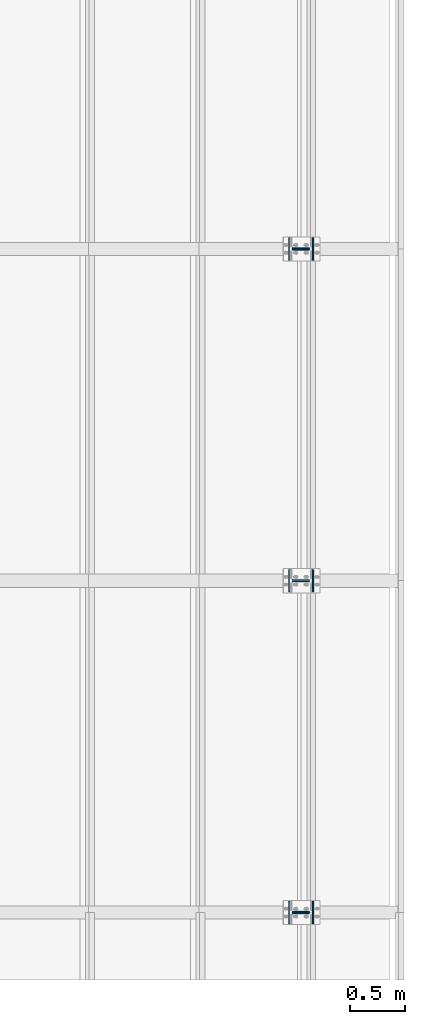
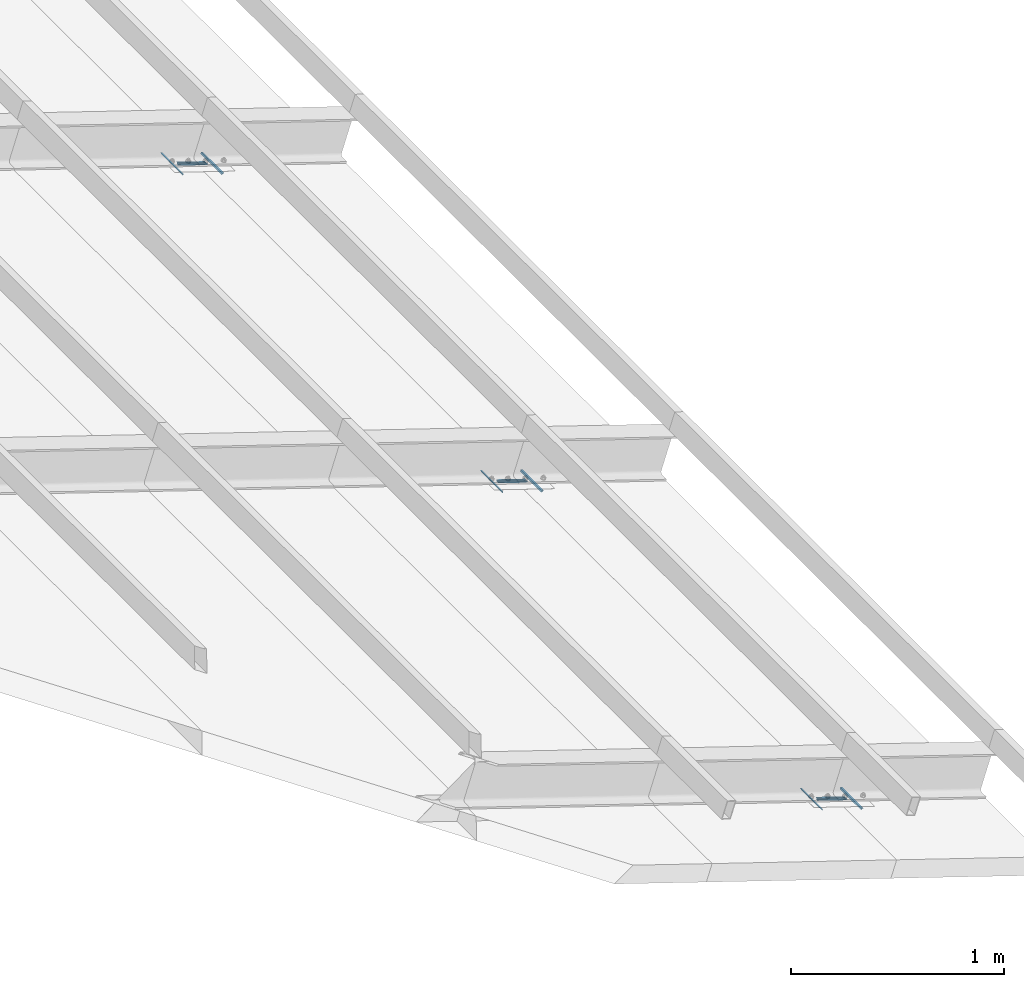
# One storey, part 15 of 53: 24 fasteners.
"""IFC4 building model written with IfcOpenShell, lengths in metres."""

from ifc_helpers import new_model, si_unit, frame, origin_with_axes, place, context, project, spatial, polyline, outline, extrude, type_object, element, save


model = new_model("IFC4")

# Units and contexts
model_context = context("Model", 3, precision=1e-05, world=origin_with_axes())
ifc_project = project(units=[si_unit("LENGTHUNIT", "METRE"), si_unit("AREAUNIT", "SQUARE_METRE"), si_unit("VOLUMEUNIT", "CUBIC_METRE"), si_unit("MASSUNIT", "GRAM", prefix="KILO"), si_unit("TIMEUNIT", "SECOND"), si_unit("PLANEANGLEUNIT", "RADIAN"), si_unit("SOLIDANGLEUNIT", "STERADIAN"), si_unit("THERMODYNAMICTEMPERATUREUNIT", "DEGREE_CELSIUS")], contexts=[model_context])

# Site, building, storey
placement_1 = place(None, origin_with_axes())
site = spatial("IfcSite", under=ifc_project, at=placement_1, Name="Italia", CompositionType="ELEMENT")
building = spatial("IfcBuilding", under=site, at=placement_1, Name="Capannone", CompositionType="ELEMENT")
storey_placement = place(None, frame((0.0, 0.0, 5.550000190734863), z_axis=(0.0, 0.0, 1.0), x_axis=(1.0, 0.0, 0.0)))
storey = spatial("IfcBuildingStorey", under=building, at=storey_placement, Name="Storey 1", CompositionType="ELEMENT", Elevation=5.550000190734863)

# Fasteners
fastener_type_1 = type_object("IfcFastenerType", Name="Collegamenti 0102_0002 0104_0004 0106_0006 0108_0008 0110_0010 0112_0012", PredefinedType="WELD")
placement_2 = place(placement_1, origin_with_axes())
fastener_1_placement = place(placement_2, origin_with_axes())
element("IfcFastener", 1, at=fastener_1_placement, inside=storey, type_object=fastener_type_1, Name="Collegamenti 0102_0002 0104_0004 0106_0006 0108_0008 0110_0010 0112_0012", context=model_context, shape_type="SweptSolid", body=[
    extrude(outline(polyline([(0.0, 0.0), (-0.00619888, -0.0127454), (-0.00937462, -0.00308037), (0.0, 0.0)])), frame((13.8857, -0.10005, 5.57182), z_axis=(0.0, 1.0, 0.0), x_axis=(-1.0, 0.0, 0.0)), (0.0, 0.0, 1.0), 0.2001),
])
fastener_type_2 = type_object("IfcFastenerType", Name="Collegamenti 0102_0002 0104_0004 0106_0006 0108_0008 0110_0010 0112_0012", PredefinedType="WELD")
fastener_2_placement = place(placement_2, origin_with_axes())
element("IfcFastener", 2, at=fastener_2_placement, inside=storey, type_object=fastener_type_2, Name="Collegamenti 0102_0002 0104_0004 0106_0006 0108_0008 0110_0010 0112_0012", context=model_context, shape_type="SweptSolid", body=[
    extrude(outline(polyline([(0.0, 0.0), (-0.0125504, -0.00658464), (-0.00937462, 0.00308037), (0.0, 0.0)])), frame((14.1143, 0.10005, 5.4967), z_axis=(0.0, -1.0, 0.0), x_axis=(1.0, 0.0, 0.0)), (0.0, 0.0, 1.0), 0.2001),
])
fastener_type_3 = type_object("IfcFastenerType", Name="Collegamenti 0102_0002 0104_0004 0106_0006 0108_0008 0110_0010 0112_0012", PredefinedType="WELD")
fastener_3_placement = place(placement_2, origin_with_axes())
element("IfcFastener", 3, at=fastener_3_placement, inside=storey, type_object=fastener_type_3, Name="Collegamenti 0102_0002 0104_0004 0106_0006 0108_0008 0110_0010 0112_0012", context=model_context, shape_type="SweptSolid", body=[
    extrude(outline(polyline([(0.0, 0.0), (-0.00986816, -0.0101738), (-0.00986816, 0.0), (0.0, 0.0)])), frame((13.9231, 0.0133181, 5.55954), z_axis=(0.950030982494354, 0.0, -0.312155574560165), x_axis=(0.0, 1.0, 0.0)), (0.0, 0.0, 1.0), 0.161989),
])
fastener_type_4 = type_object("IfcFastenerType", Name="Collegamenti 0102_0002 0104_0004 0106_0006 0108_0008 0110_0010 0112_0012", PredefinedType="WELD")
fastener_4_placement = place(placement_2, origin_with_axes())
element("IfcFastener", 4, at=fastener_4_placement, inside=storey, type_object=fastener_type_4, Name="Collegamenti 0102_0002 0104_0004 0106_0006 0108_0008 0110_0010 0112_0012", context=model_context, shape_type="SweptSolid", body=[
    extrude(outline(polyline([(0.0, 0.0), (-0.00986816, -0.0101738), (-0.00986816, 0.0), (0.0, 0.0)])), frame((14.077, -0.0133182, 5.50898), z_axis=(-0.950030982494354, 0.0, 0.312155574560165), x_axis=(0.0, -1.0, 0.0)), (0.0, 0.0, 1.0), 0.161989),
])
fastener_type_5 = type_object("IfcFastenerType", Name="Collegamenti 0102_0002 0104_0004 0106_0006 0108_0008 0110_0010 0112_0012", PredefinedType="WELD")
fastener_5_placement = place(placement_2, origin_with_axes())
element("IfcFastener", 5, at=fastener_5_placement, inside=storey, type_object=fastener_type_5, Name="Collegamenti 0102_0002 0104_0004 0106_0006 0108_0008 0110_0010 0112_0012", context=model_context, shape_type="SweptSolid", body=[
    extrude(outline(polyline([(0.0, 0.0), (-0.00619888, -0.0127454), (-0.00937462, -0.00308037), (0.0, 0.0)])), frame((13.8857, -0.10005, 5.57182), z_axis=(0.0, 1.0, 0.0), x_axis=(-1.0, 0.0, 0.0)), (0.0, 0.0, 1.0), 0.2001),
])
fastener_type_6 = type_object("IfcFastenerType", Name="Collegamenti 0102_0002 0104_0004 0106_0006 0108_0008 0110_0010 0112_0012", PredefinedType="WELD")
fastener_6_placement = place(placement_2, origin_with_axes())
element("IfcFastener", 6, at=fastener_6_placement, inside=storey, type_object=fastener_type_6, Name="Collegamenti 0102_0002 0104_0004 0106_0006 0108_0008 0110_0010 0112_0012", context=model_context, shape_type="SweptSolid", body=[
    extrude(outline(polyline([(0.0, 0.0), (-0.0125504, -0.00658464), (-0.00937462, 0.00308037), (0.0, 0.0)])), frame((14.1143, 0.10005, 5.4967), z_axis=(0.0, -1.0, 0.0), x_axis=(1.0, 0.0, 0.0)), (0.0, 0.0, 1.0), 0.2001),
])
fastener_type_7 = type_object("IfcFastenerType", Name="Collegamenti 0102_0002 0104_0004 0106_0006 0108_0008 0110_0010 0112_0012", PredefinedType="WELD")
fastener_7_placement = place(placement_2, origin_with_axes())
element("IfcFastener", 7, at=fastener_7_placement, inside=storey, type_object=fastener_type_7, Name="Collegamenti 0102_0002 0104_0004 0106_0006 0108_0008 0110_0010 0112_0012", context=model_context, shape_type="SweptSolid", body=[
    extrude(outline(polyline([(0.0, 0.0), (-0.00986816, -0.0101738), (-0.00986816, 0.0), (0.0, 0.0)])), frame((13.9231, 0.0133181, 5.55954), z_axis=(0.950030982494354, 0.0, -0.312155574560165), x_axis=(0.0, 1.0, 0.0)), (0.0, 0.0, 1.0), 0.161989),
])
fastener_type_8 = type_object("IfcFastenerType", Name="Collegamenti 0102_0002 0104_0004 0106_0006 0108_0008 0110_0010 0112_0012", PredefinedType="WELD")
fastener_8_placement = place(placement_2, origin_with_axes())
element("IfcFastener", 8, at=fastener_8_placement, inside=storey, type_object=fastener_type_8, Name="Collegamenti 0102_0002 0104_0004 0106_0006 0108_0008 0110_0010 0112_0012", context=model_context, shape_type="SweptSolid", body=[
    extrude(outline(polyline([(0.0, 0.0), (-0.00986816, -0.0101738), (-0.00986816, 0.0), (0.0, 0.0)])), frame((14.077, -0.0133182, 5.50898), z_axis=(-0.950030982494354, 0.0, 0.312155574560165), x_axis=(0.0, -1.0, 0.0)), (0.0, 0.0, 1.0), 0.161989),
])
fastener_type_9 = type_object("IfcFastenerType", Name="Collegamenti 0102_0002 0104_0004 0106_0006 0108_0008 0110_0010 0112_0012", PredefinedType="WELD")
fastener_9_placement = place(placement_2, origin_with_axes())
element("IfcFastener", 9, at=fastener_9_placement, inside=storey, type_object=fastener_type_9, Name="Collegamenti 0102_0002 0104_0004 0106_0006 0108_0008 0110_0010 0112_0012", context=model_context, shape_type="SweptSolid", body=[
    extrude(outline(polyline([(0.0, 0.0), (-0.00619888, -0.0127454), (-0.00937462, -0.00308037), (0.0, 0.0)])), frame((13.8857, 2.89995, 5.57182), z_axis=(0.0, 1.0, 0.0), x_axis=(-1.0, 0.0, 0.0)), (0.0, 0.0, 1.0), 0.2001),
])
fastener_type_10 = type_object("IfcFastenerType", Name="Collegamenti 0102_0002 0104_0004 0106_0006 0108_0008 0110_0010 0112_0012", PredefinedType="WELD")
fastener_10_placement = place(placement_2, origin_with_axes())
element("IfcFastener", 10, at=fastener_10_placement, inside=storey, type_object=fastener_type_10, Name="Collegamenti 0102_0002 0104_0004 0106_0006 0108_0008 0110_0010 0112_0012", context=model_context, shape_type="SweptSolid", body=[
    extrude(outline(polyline([(0.0, 0.0), (-0.0125504, -0.00658464), (-0.00937462, 0.00308037), (0.0, 0.0)])), frame((14.1143, 3.10005, 5.4967), z_axis=(0.0, -1.0, 0.0), x_axis=(1.0, 0.0, 0.0)), (0.0, 0.0, 1.0), 0.2001),
])
fastener_type_11 = type_object("IfcFastenerType", Name="Collegamenti 0102_0002 0104_0004 0106_0006 0108_0008 0110_0010 0112_0012", PredefinedType="WELD")
fastener_11_placement = place(placement_2, origin_with_axes())
element("IfcFastener", 11, at=fastener_11_placement, inside=storey, type_object=fastener_type_11, Name="Collegamenti 0102_0002 0104_0004 0106_0006 0108_0008 0110_0010 0112_0012", context=model_context, shape_type="SweptSolid", body=[
    extrude(outline(polyline([(0.0, 0.0), (-0.00986814, -0.0101738), (-0.00986814, 0.0), (0.0, 0.0)])), frame((13.9231, 3.01332, 5.55954), z_axis=(0.950030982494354, 0.0, -0.312155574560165), x_axis=(0.0, 1.0, 0.0)), (0.0, 0.0, 1.0), 0.161989),
])
fastener_type_12 = type_object("IfcFastenerType", Name="Collegamenti 0102_0002 0104_0004 0106_0006 0108_0008 0110_0010 0112_0012", PredefinedType="WELD")
fastener_12_placement = place(placement_2, origin_with_axes())
element("IfcFastener", 12, at=fastener_12_placement, inside=storey, type_object=fastener_type_12, Name="Collegamenti 0102_0002 0104_0004 0106_0006 0108_0008 0110_0010 0112_0012", context=model_context, shape_type="SweptSolid", body=[
    extrude(outline(polyline([(0.0, 0.0), (-0.00986814, -0.0101738), (-0.00986814, 0.0), (0.0, 0.0)])), frame((14.077, 2.98668, 5.50898), z_axis=(-0.950030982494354, 0.0, 0.312155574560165), x_axis=(0.0, -1.0, 0.0)), (0.0, 0.0, 1.0), 0.161989),
])
fastener_type_13 = type_object("IfcFastenerType", Name="Collegamenti 0102_0002 0104_0004 0106_0006 0108_0008 0110_0010 0112_0012", PredefinedType="WELD")
fastener_13_placement = place(placement_2, origin_with_axes())
element("IfcFastener", 13, at=fastener_13_placement, inside=storey, type_object=fastener_type_13, Name="Collegamenti 0102_0002 0104_0004 0106_0006 0108_0008 0110_0010 0112_0012", context=model_context, shape_type="SweptSolid", body=[
    extrude(outline(polyline([(0.0, 0.0), (-0.00619888, -0.0127454), (-0.00937462, -0.00308037), (0.0, 0.0)])), frame((13.8857, 2.89995, 5.57182), z_axis=(0.0, 1.0, 0.0), x_axis=(-1.0, 0.0, 0.0)), (0.0, 0.0, 1.0), 0.2001),
])
fastener_type_14 = type_object("IfcFastenerType", Name="Collegamenti 0102_0002 0104_0004 0106_0006 0108_0008 0110_0010 0112_0012", PredefinedType="WELD")
fastener_14_placement = place(placement_2, origin_with_axes())
element("IfcFastener", 14, at=fastener_14_placement, inside=storey, type_object=fastener_type_14, Name="Collegamenti 0102_0002 0104_0004 0106_0006 0108_0008 0110_0010 0112_0012", context=model_context, shape_type="SweptSolid", body=[
    extrude(outline(polyline([(0.0, 0.0), (-0.0125504, -0.00658464), (-0.00937462, 0.00308037), (0.0, 0.0)])), frame((14.1143, 3.10005, 5.4967), z_axis=(0.0, -1.0, 0.0), x_axis=(1.0, 0.0, 0.0)), (0.0, 0.0, 1.0), 0.2001),
])
fastener_type_15 = type_object("IfcFastenerType", Name="Collegamenti 0102_0002 0104_0004 0106_0006 0108_0008 0110_0010 0112_0012", PredefinedType="WELD")
fastener_15_placement = place(placement_2, origin_with_axes())
element("IfcFastener", 15, at=fastener_15_placement, inside=storey, type_object=fastener_type_15, Name="Collegamenti 0102_0002 0104_0004 0106_0006 0108_0008 0110_0010 0112_0012", context=model_context, shape_type="SweptSolid", body=[
    extrude(outline(polyline([(0.0, 0.0), (-0.00986814, -0.0101738), (-0.00986814, 0.0), (0.0, 0.0)])), frame((13.9231, 3.01332, 5.55954), z_axis=(0.950030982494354, 0.0, -0.312155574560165), x_axis=(0.0, 1.0, 0.0)), (0.0, 0.0, 1.0), 0.161989),
])
fastener_type_16 = type_object("IfcFastenerType", Name="Collegamenti 0102_0002 0104_0004 0106_0006 0108_0008 0110_0010 0112_0012", PredefinedType="WELD")
fastener_16_placement = place(placement_2, origin_with_axes())
element("IfcFastener", 16, at=fastener_16_placement, inside=storey, type_object=fastener_type_16, Name="Collegamenti 0102_0002 0104_0004 0106_0006 0108_0008 0110_0010 0112_0012", context=model_context, shape_type="SweptSolid", body=[
    extrude(outline(polyline([(0.0, 0.0), (-0.00986814, -0.0101738), (-0.00986814, 0.0), (0.0, 0.0)])), frame((14.077, 2.98668, 5.50898), z_axis=(-0.950030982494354, 0.0, 0.312155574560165), x_axis=(0.0, -1.0, 0.0)), (0.0, 0.0, 1.0), 0.161989),
])
fastener_type_17 = type_object("IfcFastenerType", Name="Collegamenti 0102_0002 0104_0004 0106_0006 0108_0008 0110_0010 0112_0012", PredefinedType="WELD")
fastener_17_placement = place(placement_2, origin_with_axes())
element("IfcFastener", 17, at=fastener_17_placement, inside=storey, type_object=fastener_type_17, Name="Collegamenti 0102_0002 0104_0004 0106_0006 0108_0008 0110_0010 0112_0012", context=model_context, shape_type="SweptSolid", body=[
    extrude(outline(polyline([(0.0, 0.0), (-0.00619888, -0.0127454), (-0.00937462, -0.00308037), (0.0, 0.0)])), frame((13.8857, 5.89995, 5.57182), z_axis=(0.0, 1.0, 0.0), x_axis=(-1.0, 0.0, 0.0)), (0.0, 0.0, 1.0), 0.2001),
])
fastener_type_18 = type_object("IfcFastenerType", Name="Collegamenti 0102_0002 0104_0004 0106_0006 0108_0008 0110_0010 0112_0012", PredefinedType="WELD")
fastener_18_placement = place(placement_2, origin_with_axes())
element("IfcFastener", 18, at=fastener_18_placement, inside=storey, type_object=fastener_type_18, Name="Collegamenti 0102_0002 0104_0004 0106_0006 0108_0008 0110_0010 0112_0012", context=model_context, shape_type="SweptSolid", body=[
    extrude(outline(polyline([(0.0, 0.0), (-0.0125504, -0.00658464), (-0.00937462, 0.00308037), (0.0, 0.0)])), frame((14.1143, 6.10005, 5.4967), z_axis=(0.0, -1.0, 0.0), x_axis=(1.0, 0.0, 0.0)), (0.0, 0.0, 1.0), 0.2001),
])
fastener_type_19 = type_object("IfcFastenerType", Name="Collegamenti 0102_0002 0104_0004 0106_0006 0108_0008 0110_0010 0112_0012", PredefinedType="WELD")
fastener_19_placement = place(placement_2, origin_with_axes())
element("IfcFastener", 19, at=fastener_19_placement, inside=storey, type_object=fastener_type_19, Name="Collegamenti 0102_0002 0104_0004 0106_0006 0108_0008 0110_0010 0112_0012", context=model_context, shape_type="SweptSolid", body=[
    extrude(outline(polyline([(0.0, 0.0), (-0.00986814, -0.0101738), (-0.00986814, 0.0), (0.0, 0.0)])), frame((13.9231, 6.01332, 5.55954), z_axis=(0.950030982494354, 0.0, -0.312155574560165), x_axis=(0.0, 1.0, 0.0)), (0.0, 0.0, 1.0), 0.161989),
])
fastener_type_20 = type_object("IfcFastenerType", Name="Collegamenti 0102_0002 0104_0004 0106_0006 0108_0008 0110_0010 0112_0012", PredefinedType="WELD")
fastener_20_placement = place(placement_2, origin_with_axes())
element("IfcFastener", 20, at=fastener_20_placement, inside=storey, type_object=fastener_type_20, Name="Collegamenti 0102_0002 0104_0004 0106_0006 0108_0008 0110_0010 0112_0012", context=model_context, shape_type="SweptSolid", body=[
    extrude(outline(polyline([(0.0, 0.0), (-0.00986814, -0.0101738), (-0.00986814, 0.0), (0.0, 0.0)])), frame((14.077, 5.98668, 5.50898), z_axis=(-0.950030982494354, 0.0, 0.312155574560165), x_axis=(0.0, -1.0, 0.0)), (0.0, 0.0, 1.0), 0.161989),
])
fastener_type_21 = type_object("IfcFastenerType", Name="Collegamenti 0102_0002 0104_0004 0106_0006 0108_0008 0110_0010 0112_0012", PredefinedType="WELD")
fastener_21_placement = place(placement_2, origin_with_axes())
element("IfcFastener", 21, at=fastener_21_placement, inside=storey, type_object=fastener_type_21, Name="Collegamenti 0102_0002 0104_0004 0106_0006 0108_0008 0110_0010 0112_0012", context=model_context, shape_type="SweptSolid", body=[
    extrude(outline(polyline([(0.0, 0.0), (-0.00619888, -0.0127454), (-0.00937462, -0.00308037), (0.0, 0.0)])), frame((13.8857, 5.89995, 5.57182), z_axis=(0.0, 1.0, 0.0), x_axis=(-1.0, 0.0, 0.0)), (0.0, 0.0, 1.0), 0.2001),
])
fastener_type_22 = type_object("IfcFastenerType", Name="Collegamenti 0102_0002 0104_0004 0106_0006 0108_0008 0110_0010 0112_0012", PredefinedType="WELD")
fastener_22_placement = place(placement_2, origin_with_axes())
element("IfcFastener", 22, at=fastener_22_placement, inside=storey, type_object=fastener_type_22, Name="Collegamenti 0102_0002 0104_0004 0106_0006 0108_0008 0110_0010 0112_0012", context=model_context, shape_type="SweptSolid", body=[
    extrude(outline(polyline([(0.0, 0.0), (-0.0125504, -0.00658464), (-0.00937462, 0.00308037), (0.0, 0.0)])), frame((14.1143, 6.10005, 5.4967), z_axis=(0.0, -1.0, 0.0), x_axis=(1.0, 0.0, 0.0)), (0.0, 0.0, 1.0), 0.2001),
])
fastener_type_23 = type_object("IfcFastenerType", Name="Collegamenti 0102_0002 0104_0004 0106_0006 0108_0008 0110_0010 0112_0012", PredefinedType="WELD")
fastener_23_placement = place(placement_2, origin_with_axes())
element("IfcFastener", 23, at=fastener_23_placement, inside=storey, type_object=fastener_type_23, Name="Collegamenti 0102_0002 0104_0004 0106_0006 0108_0008 0110_0010 0112_0012", context=model_context, shape_type="SweptSolid", body=[
    extrude(outline(polyline([(0.0, 0.0), (-0.00986814, -0.0101738), (-0.00986814, 0.0), (0.0, 0.0)])), frame((13.9231, 6.01332, 5.55954), z_axis=(0.950030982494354, 0.0, -0.312155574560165), x_axis=(0.0, 1.0, 0.0)), (0.0, 0.0, 1.0), 0.161989),
])
fastener_type_24 = type_object("IfcFastenerType", Name="Collegamenti 0102_0002 0104_0004 0106_0006 0108_0008 0110_0010 0112_0012", PredefinedType="WELD")
fastener_24_placement = place(placement_2, origin_with_axes())
element("IfcFastener", 24, at=fastener_24_placement, inside=storey, type_object=fastener_type_24, Name="Collegamenti 0102_0002 0104_0004 0106_0006 0108_0008 0110_0010 0112_0012", context=model_context, shape_type="SweptSolid", body=[
    extrude(outline(polyline([(0.0, 0.0), (-0.00986814, -0.0101738), (-0.00986814, 0.0), (0.0, 0.0)])), frame((14.077, 5.98668, 5.50898), z_axis=(-0.950030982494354, 0.0, 0.312155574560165), x_axis=(0.0, -1.0, 0.0)), (0.0, 0.0, 1.0), 0.161989),
])

save(model, "model.ifc")
